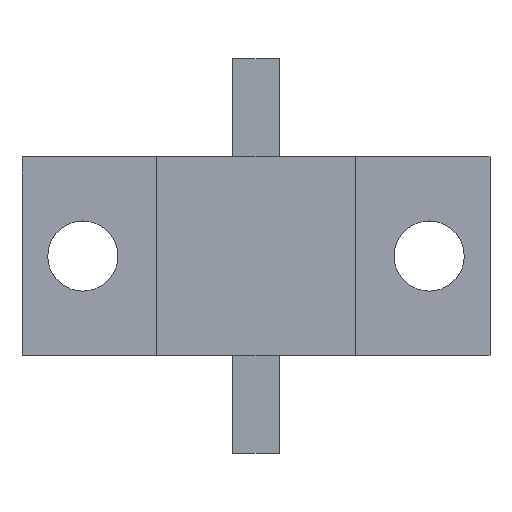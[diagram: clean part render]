
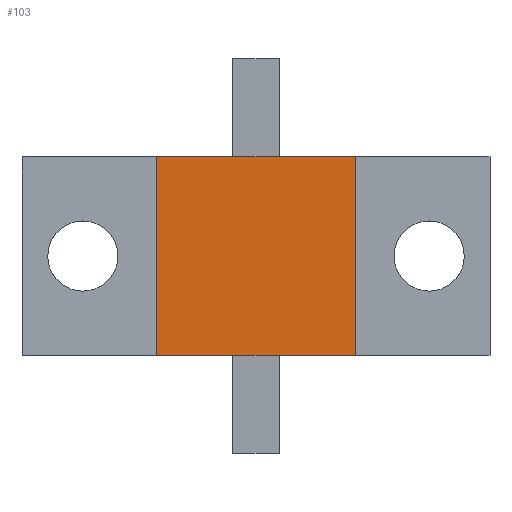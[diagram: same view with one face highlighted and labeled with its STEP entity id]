
A CAD part, top view. The second image highlights one B-rep face of the part: STEP entity #103.
In plain terms, the highlighted planar face has unit normal (0, 0, 1).
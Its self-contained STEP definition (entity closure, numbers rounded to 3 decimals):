
#103=ADVANCED_FACE('',(#293),#295,.T.);
#293=FACE_BOUND('',#294,.T.);
#294=EDGE_LOOP('',(#454,#455,#456,#457));
#295=PLANE('',#296);
#296=AXIS2_PLACEMENT_3D('',#297,#298,#299);
#297=CARTESIAN_POINT('',(0.,0.,6.8));
#298=DIRECTION('',(0.,0.,1.));
#299=DIRECTION('',(-1.,0.,0.));
#454=ORIENTED_EDGE('',*,*,#550,.T.);
#455=ORIENTED_EDGE('',*,*,#551,.T.);
#456=ORIENTED_EDGE('',*,*,#530,.T.);
#457=ORIENTED_EDGE('',*,*,#552,.T.);
#530=EDGE_CURVE('',#582,#583,#584,.T.);
#550=EDGE_CURVE('',#618,#619,#620,.T.);
#551=EDGE_CURVE('',#619,#582,#621,.T.);
#552=EDGE_CURVE('',#583,#618,#622,.T.);
#582=VERTEX_POINT('',#670);
#583=VERTEX_POINT('',#671);
#584=LINE('',#672,#673);
#618=VERTEX_POINT('',#746);
#619=VERTEX_POINT('',#747);
#620=LINE('',#748,#749);
#621=LINE('',#751,#752);
#622=LINE('',#754,#755);
#670=CARTESIAN_POINT('',(6.35,6.35,6.8));
#671=CARTESIAN_POINT('',(-6.35,6.35,6.8));
#672=CARTESIAN_POINT('',(6.35,6.35,6.8));
#673=VECTOR('',#674,1.);
#674=DIRECTION('',(-1.,0.,0.));
#746=CARTESIAN_POINT('',(-6.35,-6.35,6.8));
#747=CARTESIAN_POINT('',(6.35,-6.35,6.8));
#748=CARTESIAN_POINT('',(-6.35,-6.35,6.8));
#749=VECTOR('',#750,1.);
#750=DIRECTION('',(1.,0.,0.));
#751=CARTESIAN_POINT('',(6.35,-6.35,6.8));
#752=VECTOR('',#753,1.);
#753=DIRECTION('',(0.,1.,0.));
#754=CARTESIAN_POINT('',(-6.35,6.35,6.8));
#755=VECTOR('',#756,1.);
#756=DIRECTION('',(0.,-1.,0.));
